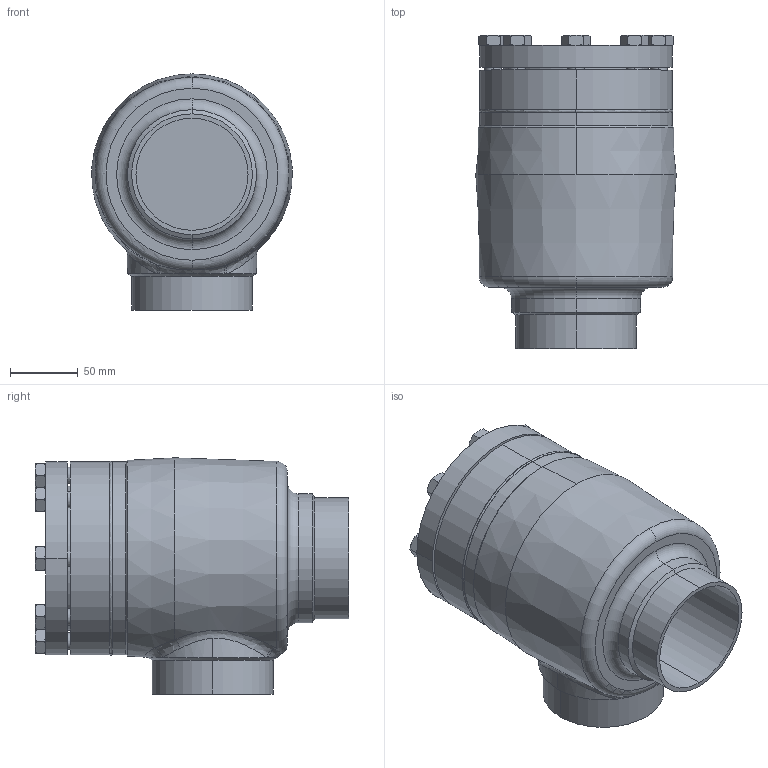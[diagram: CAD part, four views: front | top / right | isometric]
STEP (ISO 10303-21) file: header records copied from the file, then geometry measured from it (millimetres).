
FILE_DESCRIPTION (( 'STEP AP214' ), '1' );
FILE_NAME ('SS52400D18-DN080_R1_PS40.STEP', '2007-01-08T09:52:09', ( 'Herr Grams' ), ( 'AWP GmbH' ), 'SwSTEP 2.0', 'SolidWorks 2002296', '' );
FILE_SCHEMA (( 'AUTOMOTIVE_DESIGN' ));
Length unit declared in the file: millimetre
Products named in the file (8): SS52400D18-DN080_R1_PS40; SS52300E18_Deck+Schr-DN80_Standard; Deckel52300E18-DN80_Standard; Sechskantschraube-DIN933_M12x 30; Gehäuse-kpl16400-DN080_R1_Standard; Gehäuse16400-DN080_Standard; Kopfstück16300-DN080_Standard; bead-DN080-1_Standard
Assembly tree (14 placements, depth 3):
  SS52400D18-DN080_R1_PS40
    Gehäuse-kpl16400-DN080_R1_Standard
      Gehäuse16400-DN080_Standard
      bead-DN080-1_Standard
      Kopfstück16300-DN080_Standard
    SS52300E18_Deck+Schr-DN80_Standard
      Sechskantschraube-DIN933_M12x 30  x8
      Deckel52300E18-DN80_Standard
Bounding box: 147.49 x 230.5 x 173.89 mm (x, y, z)
Volume: 1379283.3 mm3; surface area: 279626.8 mm2
Topology: 12 solids, 12 shells, 287 faces, 618 edges, 367 vertices
Faces by surface type: cone 123, plane 86, cylinder 62, bspline 12, torus 4
Entity records: 14866 total; most frequent: CARTESIAN_POINT 11753, DIRECTION 563, ORIENTED_EDGE 508, EDGE_CURVE 254, AXIS2_PLACEMENT_3D 250, VERTEX_POINT 157, EDGE_LOOP 141, CIRCLE 131
